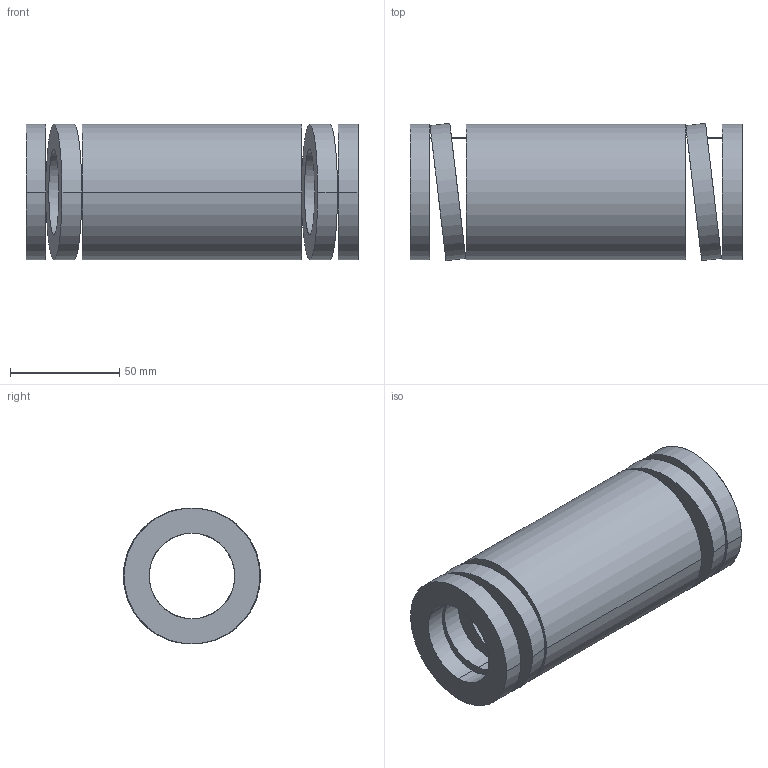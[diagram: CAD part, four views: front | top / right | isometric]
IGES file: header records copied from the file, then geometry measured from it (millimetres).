
Start section: START RECORD GO HERE.
Global section: file name: 392-B63-152.igs; native system: DASSAULT SYSTEMES CATIA V5 R20 - www.3ds.com; preprocessor: CATIA Version 5 Release 20 ; author: Utente; organization: NB04-ASUS; date: 20210813.134608; units: millimetre
Bounding box: 152 x 62.84 x 62.2 mm (x, y, z)
Surface area: 61871.1 mm2 (no closed solid volume)
Topology: 0 solids, 0 shells, 38 faces, 184 edges, 184 vertices
Faces by surface type: revolution 28, plane 10
